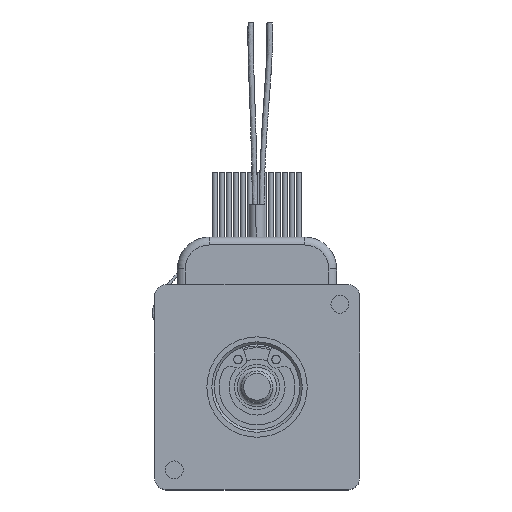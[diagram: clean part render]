
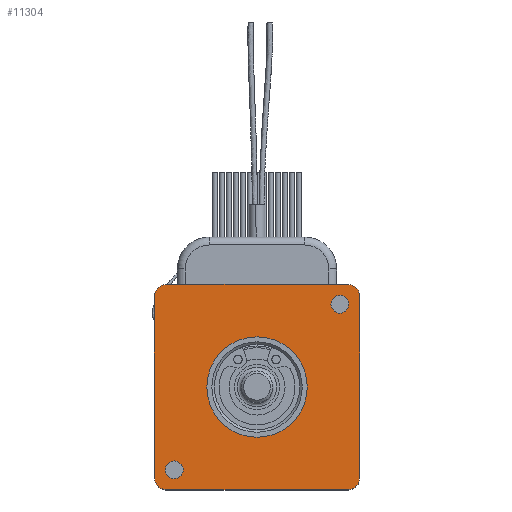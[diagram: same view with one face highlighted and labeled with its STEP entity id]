
A CAD part, top view. The second image highlights one B-rep face of the part: STEP entity #11304.
In plain terms, the highlighted planar face has unit normal (0, 0, 1).
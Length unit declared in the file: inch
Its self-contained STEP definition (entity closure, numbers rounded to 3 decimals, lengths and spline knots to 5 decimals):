
#10750=CARTESIAN_POINT('',(0.72,0.65,0.191));
#10751=VERTEX_POINT('',#10750);
#10752=CARTESIAN_POINT('',(0.65,0.65,0.191));
#10753=DIRECTION('',(0.0,0.0,-1.0));
#10754=DIRECTION('',(-1.0,0.0,0.0));
#10755=AXIS2_PLACEMENT_3D('',#10752,#10753,#10754);
#10756=CIRCLE('',#10755,0.07);
#10757=EDGE_CURVE('',#10751,#10751,#10756,.T.);
#10853=CARTESIAN_POINT('',(-0.58,-0.65,0.191));
#10854=VERTEX_POINT('',#10853);
#10855=CARTESIAN_POINT('',(-0.65,-0.65,0.191));
#10856=DIRECTION('',(0.0,0.0,-1.0));
#10857=DIRECTION('',(-1.0,0.0,0.0));
#10858=AXIS2_PLACEMENT_3D('',#10855,#10856,#10857);
#10859=CIRCLE('',#10858,0.07);
#10860=EDGE_CURVE('',#10854,#10854,#10859,.T.);
#11072=CARTESIAN_POINT('',(0.394,0.,0.191));
#11073=VERTEX_POINT('',#11072);
#11074=CARTESIAN_POINT('',(0.0,0.0,0.191));
#11075=DIRECTION('',(0.0,0.0,-1.0));
#11076=DIRECTION('',(-1.0,0.0,0.0));
#11077=AXIS2_PLACEMENT_3D('',#11074,#11075,#11076);
#11078=CIRCLE('',#11077,0.394);
#11079=EDGE_CURVE('',#11073,#11073,#11078,.T.);
#11090=CARTESIAN_POINT('',(0.715,0.805,0.191));
#11091=VERTEX_POINT('',#11090);
#11098=CARTESIAN_POINT('',(0.805,0.715,0.191));
#11099=VERTEX_POINT('',#11098);
#11100=CARTESIAN_POINT('',(0.715,0.715,0.191));
#11101=DIRECTION('',(0.0,0.0,-1.));
#11102=DIRECTION('',(0.707,0.707,0.0));
#11103=AXIS2_PLACEMENT_3D('',#11100,#11101,#11102);
#11104=CIRCLE('',#11103,0.09);
#11105=EDGE_CURVE('',#11091,#11099,#11104,.T.);
#11123=CARTESIAN_POINT('',(-0.715,0.805,0.191));
#11124=VERTEX_POINT('',#11123);
#11131=CARTESIAN_POINT('',(-0.715,0.805,0.191));
#11132=DIRECTION('',(1.0,0.0,0.0));
#11133=VECTOR('',#11132,1.43);
#11134=LINE('',#11131,#11133);
#11135=EDGE_CURVE('',#11124,#11091,#11134,.T.);
#11146=CARTESIAN_POINT('',(-0.715,-0.805,0.191));
#11147=VERTEX_POINT('',#11146);
#11154=CARTESIAN_POINT('',(-0.805,-0.715,0.191));
#11155=VERTEX_POINT('',#11154);
#11156=CARTESIAN_POINT('',(-0.715,-0.715,0.191));
#11157=DIRECTION('',(0.0,0.0,-1.));
#11158=DIRECTION('',(-0.707,-0.707,0.0));
#11159=AXIS2_PLACEMENT_3D('',#11156,#11157,#11158);
#11160=CIRCLE('',#11159,0.09);
#11161=EDGE_CURVE('',#11147,#11155,#11160,.T.);
#11179=CARTESIAN_POINT('',(0.715,-0.805,0.191));
#11180=VERTEX_POINT('',#11179);
#11187=CARTESIAN_POINT('',(0.715,-0.805,0.191));
#11188=DIRECTION('',(-1.0,0.0,0.0));
#11189=VECTOR('',#11188,1.43);
#11190=LINE('',#11187,#11189);
#11191=EDGE_CURVE('',#11180,#11147,#11190,.T.);
#11202=CARTESIAN_POINT('',(0.805,-0.715,0.191));
#11203=VERTEX_POINT('',#11202);
#11210=CARTESIAN_POINT('',(0.715,-0.715,0.191));
#11211=DIRECTION('',(0.0,0.0,-1.));
#11212=DIRECTION('',(0.707,-0.707,0.0));
#11213=AXIS2_PLACEMENT_3D('',#11210,#11211,#11212);
#11214=CIRCLE('',#11213,0.09);
#11215=EDGE_CURVE('',#11203,#11180,#11214,.T.);
#11227=CARTESIAN_POINT('',(0.805,0.715,0.191));
#11228=DIRECTION('',(0.0,-1.0,0.0));
#11229=VECTOR('',#11228,1.43);
#11230=LINE('',#11227,#11229);
#11231=EDGE_CURVE('',#11099,#11203,#11230,.T.);
#11243=CARTESIAN_POINT('',(-0.805,0.715,0.191));
#11244=VERTEX_POINT('',#11243);
#11245=CARTESIAN_POINT('',(-0.715,0.715,0.191));
#11246=DIRECTION('',(0.0,0.0,-1.));
#11247=DIRECTION('',(-0.707,0.707,0.0));
#11248=AXIS2_PLACEMENT_3D('',#11245,#11246,#11247);
#11249=CIRCLE('',#11248,0.09);
#11250=EDGE_CURVE('',#11244,#11124,#11249,.T.);
#11269=CARTESIAN_POINT('',(-0.805,-0.715,0.191));
#11270=DIRECTION('',(0.0,1.0,0.0));
#11271=VECTOR('',#11270,1.43);
#11272=LINE('',#11269,#11271);
#11273=EDGE_CURVE('',#11155,#11244,#11272,.T.);
#11280=CARTESIAN_POINT('',(0.,0.,0.191));
#11281=DIRECTION('',(0.0,0.0,1.0));
#11282=DIRECTION('',(1.0,0.0,0.0));
#11283=AXIS2_PLACEMENT_3D('',#11280,#11281,#11282);
#11284=PLANE('',#11283);
#11285=ORIENTED_EDGE('',*,*,#11105,.F.);
#11286=ORIENTED_EDGE('',*,*,#11135,.F.);
#11287=ORIENTED_EDGE('',*,*,#11250,.F.);
#11288=ORIENTED_EDGE('',*,*,#11273,.F.);
#11289=ORIENTED_EDGE('',*,*,#11161,.F.);
#11290=ORIENTED_EDGE('',*,*,#11191,.F.);
#11291=ORIENTED_EDGE('',*,*,#11215,.F.);
#11292=ORIENTED_EDGE('',*,*,#11231,.F.);
#11293=EDGE_LOOP('',(#11285,#11286,#11287,#11288,#11289,#11290,#11291,#11292));
#11294=FACE_OUTER_BOUND('',#11293,.T.);
#11295=ORIENTED_EDGE('',*,*,#10757,.T.);
#11296=EDGE_LOOP('',(#11295));
#11297=FACE_BOUND('',#11296,.T.);
#11298=ORIENTED_EDGE('',*,*,#10860,.T.);
#11299=EDGE_LOOP('',(#11298));
#11300=FACE_BOUND('',#11299,.T.);
#11301=ORIENTED_EDGE('',*,*,#11079,.T.);
#11302=EDGE_LOOP('',(#11301));
#11303=FACE_BOUND('',#11302,.T.);
#11304=ADVANCED_FACE('',(#11294,#11297,#11300,#11303),#11284,.T.);
